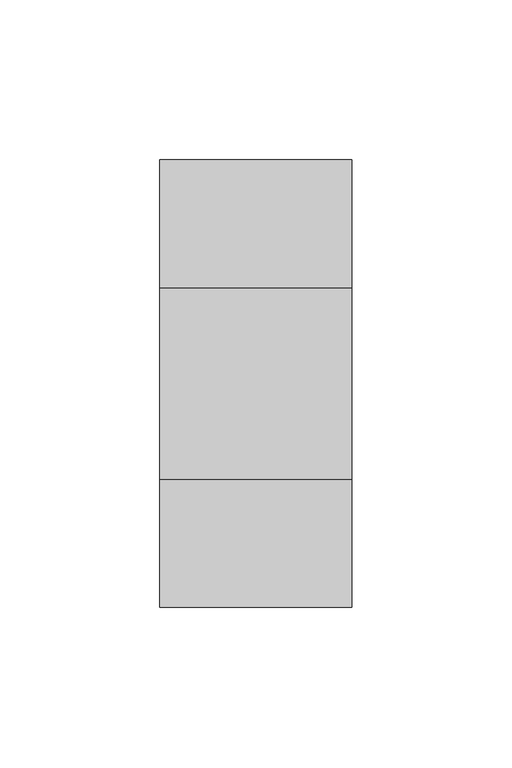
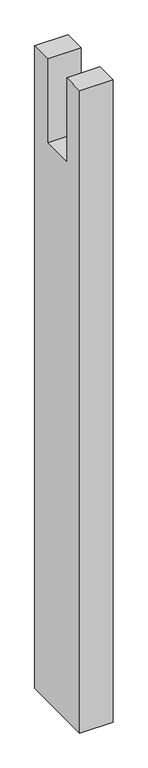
"""IFC4 building model written with IfcOpenShell, lengths in millimetres: proxy geometry, Modelos genéricos 71 : Modelos genéricos 11."""

from ifc_helpers import new_model, si_unit, frame, origin, place, context, project, spatial, polyline, outline, extrude, source, transform, mapped, element, save


def generic_models_8a4245bf(model_context):
    return source(origin(), model_context, "Body", "SweptSolid", [
        extrude(outline(polyline([(2018.6238165, 3160.0), (1878.6238165, 3160.0), (1878.6238165, 4380.0), (1918.6238165, 4380.0), (1918.6238165, 4220.0), (1978.6238165, 4220.0), (1978.6238165, 4380.0), (2018.6238165, 4380.0), (2018.6238165, 3160.0)])), frame((-1726.5527533, 0.0, 0.0), z_axis=(1.0, 0.0, 0.0), x_axis=(0.0, 1.0, 0.0)), (0.0, 0.0, 1.0), 60.0),
    ])


if __name__ == "__main__":
    model = new_model("IFC4")
    model_context = context("Model", 3, world=origin())
    ifc_project = project(units=[si_unit("LENGTHUNIT", "METRE", prefix="MILLI")], contexts=[model_context])
    site = spatial("IfcSite", under=ifc_project)
    building = spatial("IfcBuilding", under=site)
    placement = place(None, origin())
    generic_models_shape = generic_models_8a4245bf(model_context)
    element("IfcBuildingElementProxy", 1, Name="Modelos genéricos 71 : Modelos genéricos 11", ObjectType="Modelos genéricos 71 : Modelos genéricos 11", at=placement, inside=building, context=model_context, shape_type="MappedRepresentation", body=[
        mapped(generic_models_shape, transform((0.0, 0.0, 0.0), x_axis=(1.0, 0.0, 0.0), y_axis=(0.0, 1.0, 0.0), z_axis=(0.0, 0.0, 1.0))),
    ])
    save(model, "model.ifc")
